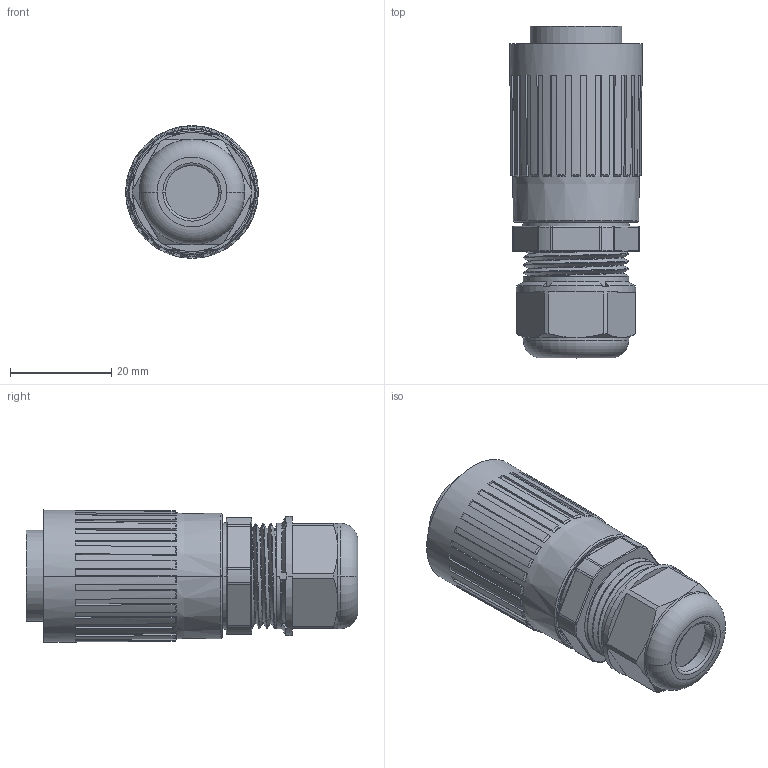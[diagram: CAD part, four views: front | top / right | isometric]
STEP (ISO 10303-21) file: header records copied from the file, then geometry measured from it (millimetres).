
FILE_DESCRIPTION((''),'2;1');
FILE_NAME('WP20J3TK','2016-06-12T',('Administrator'),(''),'PRO/ENGINEER BY PARAMETRIC TECHNOLOGY CORPORATION, 2015240','PRO/ENGINEER BY PARAMETRIC TECHNOLOGY CORPORATION, 2015240','');
FILE_SCHEMA(('CONFIG_CONTROL_DESIGN'));
Length unit declared in the file: millimetre
Products named in the file (1): WP20J3TK
Bounding box: 26.2 x 65.5 x 26.2 mm (x, y, z)
Volume: 25102.5 mm3; surface area: 9181.1 mm2
Topology: 1 solids, 1 shells, 395 faces, 1080 edges, 693 vertices
Faces by surface type: plane 174, cylinder 83, cone 52, torus 50, bspline 30, sphere 6
Entity records: 16205 total; most frequent: CARTESIAN_POINT 6566, ORIENTED_EDGE 2148, DIRECTION 1913, EDGE_CURVE 1074, AXIS2_PLACEMENT_3D 804, VERTEX_POINT 693, CIRCLE 439, EDGE_LOOP 407
